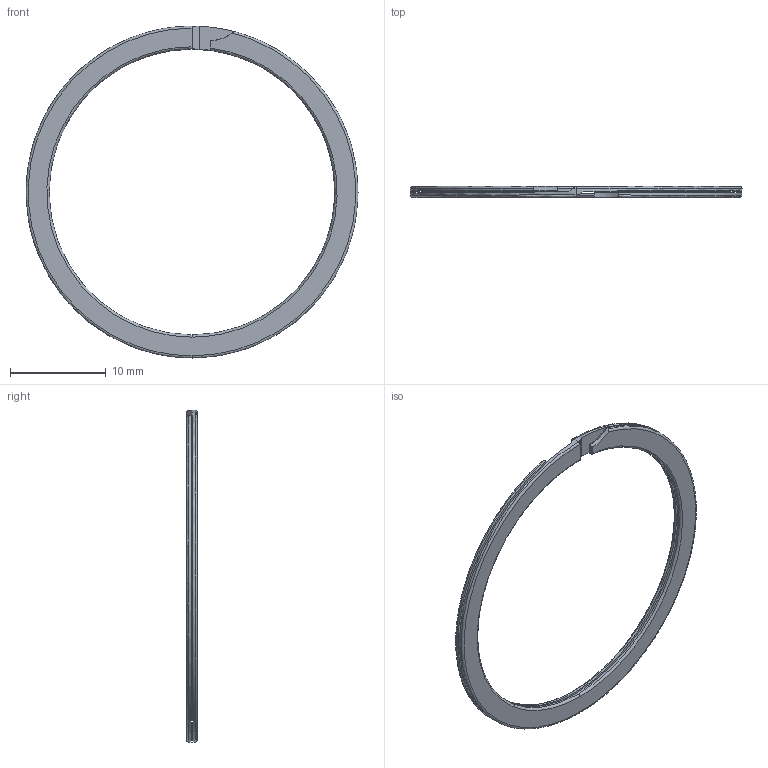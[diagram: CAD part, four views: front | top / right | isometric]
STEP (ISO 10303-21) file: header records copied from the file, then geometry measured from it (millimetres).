
FILE_DESCRIPTION (( 'STEP AP203' ), '1' );
FILE_NAME ('DNH-33_Snap_Ring.STEP', '2020-12-18T22:02:24', ( '' ), ( '' ), 'SwSTEP 2.0', 'SolidWorks 2020', '' );
FILE_SCHEMA (( 'CONFIG_CONTROL_DESIGN' ));
Length unit declared in the file: millimetre
Products named in the file (1): DNH-33_Snap_Ring
Bounding box: 34.7 x 1.14 x 34.7 mm (x, y, z)
Volume: 221.4 mm3; surface area: 1103.8 mm2
Topology: 1 solids, 1 shells, 36 faces, 94 edges, 60 vertices
Faces by surface type: bspline 12, cylinder 12, plane 12
Entity records: 1733 total; most frequent: CARTESIAN_POINT 839, ORIENTED_EDGE 188, DIRECTION 160, EDGE_CURVE 94, AXIS2_PLACEMENT_3D 65, VERTEX_POINT 60, CIRCLE 40, FACE_OUTER_BOUND 36
